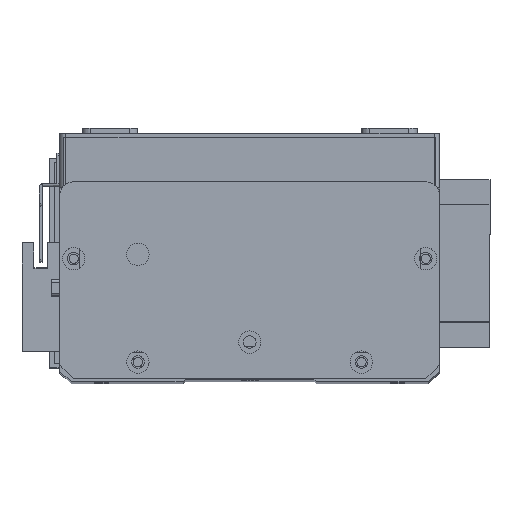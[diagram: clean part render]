
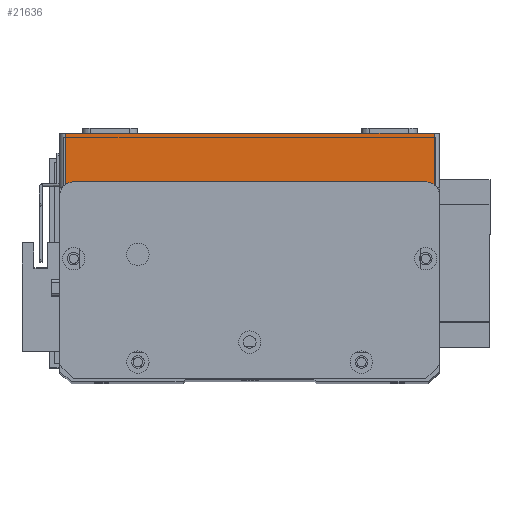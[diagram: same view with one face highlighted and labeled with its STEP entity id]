
A CAD part, top view. The second image highlights one B-rep face of the part: STEP entity #21636.
In plain terms, the highlighted planar face has unit normal (0, 0, 1) as drawn and (0, -1, 0) by its records, which use the part's own axes.
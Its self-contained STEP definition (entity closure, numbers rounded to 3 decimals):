
#502 = DIRECTION ( 'NONE',  ( 1., 0., 0. ) ) ;
#1118 = DIRECTION ( 'NONE',  ( 0., 0., -1. ) ) ;
#1593 = DIRECTION ( 'NONE',  ( 1., 0., 0. ) ) ;
#2282 = ORIENTED_EDGE ( 'NONE', *, *, #21776, .T. ) ;
#2363 = VERTEX_POINT ( 'NONE', #17713 ) ;
#2690 = VERTEX_POINT ( 'NONE', #27824 ) ;
#3804 = CARTESIAN_POINT ( 'NONE',  ( 0., 0., 0. ) ) ;
#5346 = EDGE_LOOP ( 'NONE', ( #7267, #21266, #2282, #13691 ) ) ;
#5919 = EDGE_CURVE ( 'NONE', #2690, #2363, #21160, .T. ) ;
#6016 = CARTESIAN_POINT ( 'NONE',  ( 134., 0., 19.5 ) ) ;
#6039 = VECTOR ( 'NONE', #1593, 1000. ) ;
#7050 = VECTOR ( 'NONE', #502, 1000. ) ;
#7267 = ORIENTED_EDGE ( 'NONE', *, *, #25410, .F. ) ;
#7358 = AXIS2_PLACEMENT_3D ( 'NONE', #10402, #25833, #12625 ) ;
#8455 = CARTESIAN_POINT ( 'NONE',  ( 2., 0., 0. ) ) ;
#9398 = VECTOR ( 'NONE', #14947, 1000. ) ;
#10402 = CARTESIAN_POINT ( 'NONE',  ( 0., 0., 19.5 ) ) ;
#12625 = DIRECTION ( 'NONE',  ( 0., 0., 1. ) ) ;
#12975 = LINE ( 'NONE', #20292, #7050 ) ;
#13691 = ORIENTED_EDGE ( 'NONE', *, *, #5919, .T. ) ;
#14733 = FACE_OUTER_BOUND ( 'NONE', #5346, .T. ) ;
#14808 = VERTEX_POINT ( 'NONE', #21194 ) ;
#14947 = DIRECTION ( 'NONE',  ( 0., 0., 1. ) ) ;
#16749 = EDGE_CURVE ( 'NONE', #14808, #28291, #23241, .T. ) ;
#17374 = VECTOR ( 'NONE', #1118, 1000. ) ;
#17713 = CARTESIAN_POINT ( 'NONE',  ( 134., 0., 19.5 ) ) ;
#18514 = LINE ( 'NONE', #3804, #6039 ) ;
#19186 = PLANE ( 'NONE',  #7358 ) ;
#20292 = CARTESIAN_POINT ( 'NONE',  ( 0., 0., 19.5 ) ) ;
#21160 = LINE ( 'NONE', #6016, #9398 ) ;
#21194 = CARTESIAN_POINT ( 'NONE',  ( 2., 0., 19.5 ) ) ;
#21266 = ORIENTED_EDGE ( 'NONE', *, *, #16749, .T. ) ;
#21636 = ADVANCED_FACE ( 'NONE', ( #14733 ), #19186, .F. ) ;
#21776 = EDGE_CURVE ( 'NONE', #28291, #2690, #18514, .T. ) ;
#23241 = LINE ( 'NONE', #27562, #17374 ) ;
#25410 = EDGE_CURVE ( 'NONE', #14808, #2363, #12975, .T. ) ;
#25833 = DIRECTION ( 'NONE',  ( 0., 1., 0. ) ) ;
#27562 = CARTESIAN_POINT ( 'NONE',  ( 2., 0., 19.5 ) ) ;
#27824 = CARTESIAN_POINT ( 'NONE',  ( 134., 0., 0. ) ) ;
#28291 = VERTEX_POINT ( 'NONE', #8455 ) ;
